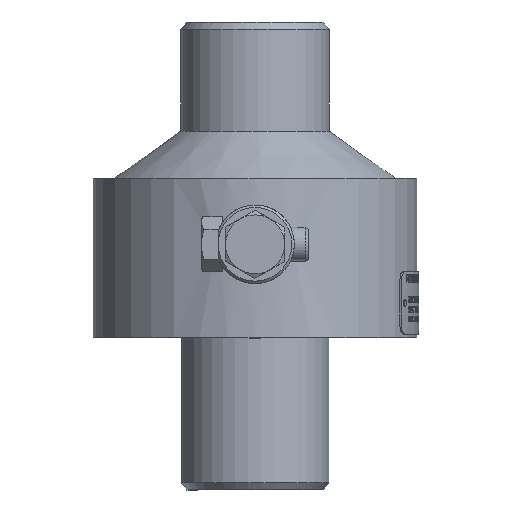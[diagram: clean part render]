
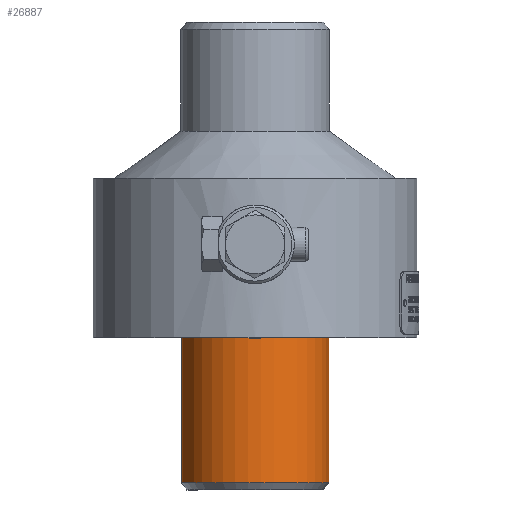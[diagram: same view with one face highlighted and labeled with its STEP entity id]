
A CAD part, left-side view. The second image highlights one B-rep face of the part: STEP entity #26887.
In plain terms, the highlighted cylindrical face has radius 30.163 mm (diameter 60.325 mm), a full revolution.
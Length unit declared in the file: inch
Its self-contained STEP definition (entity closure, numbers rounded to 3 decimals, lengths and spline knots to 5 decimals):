
#2753=CIRCLE('',#28483,1.1875);
#2754=CIRCLE('',#28485,1.1875);
#2755=CIRCLE('',#28486,1.1875);
#7452=FACE_BOUND('',#9235,.T.);
#7712=FACE_OUTER_BOUND('',#9234,.T.);
#9234=EDGE_LOOP('',(#18883,#18884));
#9235=EDGE_LOOP('',(#18885));
#12180=VERTEX_POINT('',#35798);
#12181=VERTEX_POINT('',#35801);
#12182=VERTEX_POINT('',#35802);
#14854=EDGE_CURVE('',#12180,#12180,#2753,.T.);
#14855=EDGE_CURVE('',#12181,#12182,#2754,.T.);
#14856=EDGE_CURVE('',#12182,#12181,#2755,.T.);
#18883=ORIENTED_EDGE('',*,*,#14855,.F.);
#18884=ORIENTED_EDGE('',*,*,#14856,.F.);
#18885=ORIENTED_EDGE('',*,*,#14854,.T.);
#26703=CYLINDRICAL_SURFACE('',#28484,1.1875);
#26887=ADVANCED_FACE('',(#7712,#7452),#26703,.T.);
#28483=AXIS2_PLACEMENT_3D('',#35799,#30234,#30235);
#28484=AXIS2_PLACEMENT_3D('',#35800,#30236,#30237);
#28485=AXIS2_PLACEMENT_3D('',#35803,#30238,#30239);
#28486=AXIS2_PLACEMENT_3D('',#35804,#30240,#30241);
#30234=DIRECTION('center_axis',(0.,-1.,0.));
#30235=DIRECTION('ref_axis',(1.,0.,0.));
#30236=DIRECTION('center_axis',(0.,-1.,0.));
#30237=DIRECTION('ref_axis',(1.,0.,0.));
#30238=DIRECTION('center_axis',(0.,-1.,0.));
#30239=DIRECTION('ref_axis',(1.,0.,0.));
#30240=DIRECTION('center_axis',(0.,-1.,0.));
#30241=DIRECTION('ref_axis',(1.,0.,0.));
#35798=CARTESIAN_POINT('',(1.1875,5.13075,0.));
#35799=CARTESIAN_POINT('Origin',(0.,5.13075,0.));
#35800=CARTESIAN_POINT('Origin',(0.,3.81538,0.));
#35801=CARTESIAN_POINT('',(1.1875,2.5,0.));
#35802=CARTESIAN_POINT('',(0.,2.5,1.1875));
#35803=CARTESIAN_POINT('Origin',(0.,2.5,0.));
#35804=CARTESIAN_POINT('Origin',(0.,2.5,0.));
